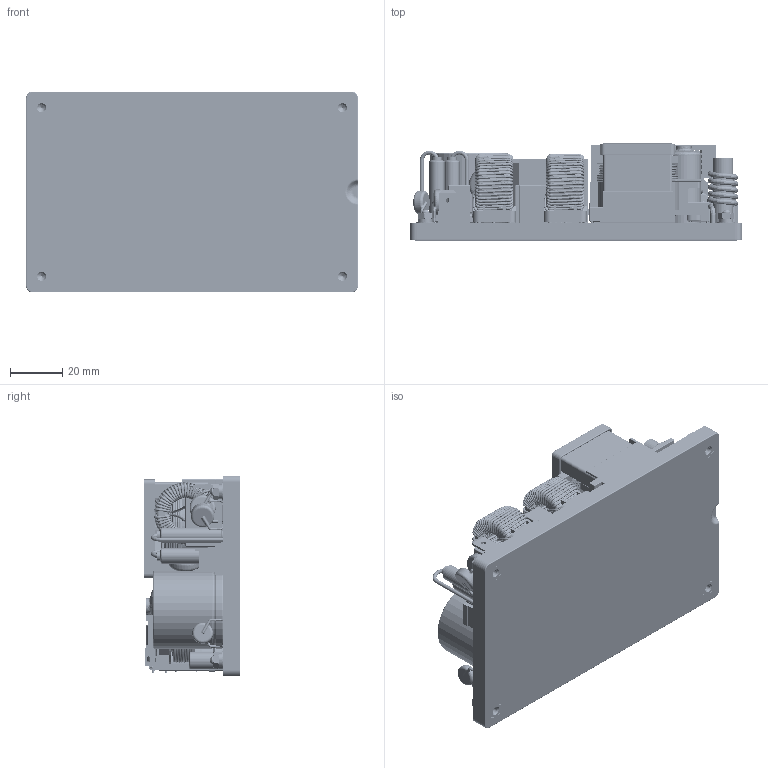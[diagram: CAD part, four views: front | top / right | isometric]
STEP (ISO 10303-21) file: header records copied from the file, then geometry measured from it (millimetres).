
FILE_DESCRIPTION (( 'STEP AP214' ), '1' );
FILE_NAME ('CUS-400M-xxVx-CXy.STEP', '2020-04-16T06:47:51', ( '' ), ( '' ), 'SwSTEP 2.0', 'SolidWorks 2019', '' );
FILE_SCHEMA (( 'AUTOMOTIVE_DESIGN' ));
Length unit declared in the file: millimetre
Products named in the file (103): R1210; 283436; R0805; R1206; A40 Fuse big sleeving 5.5 dia; C0805; SPLIT WASHERS_20035R; M4 X PH COMBI SEMS SCREW_200020; C1206; 283448; CAPACITORS ELECTROLYTIC 10mm PITCH_61085; 240178; rm12 bobbin; C0603; 220563SMA; 230344; 240204; 283717; 230403; 66751; 250238_28421; 250236; EF16; 1999M; FULL NUT_200499; 200268; A40 input fuse short wire; CON2WAYP5.08_0.1; 230184 WINDING 1; 200218; 240180; 27873; 220665SMA; 220563; 220665; 200215; 1598M; 230359 WINDING; 60652M; EF-16 FLY-BACK A40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
Assembly tree (415 placements, depth 5):
  CUS-400M-xxVx-CXy
    220665
      220665SMA
        220665
        C0603  x40
        C0805  x5
        C1206  x32
        1999M  x5
        1598M  x4
        SOD323  x13
        SOT23  x5
        SO-16_Standard
        SO-7
        SO-8  x2
        R0603  x72
        R0805  x32
        R1206
        R2512_Domyslna  x4
        SOT323  x6
        SOP4-long  x2
        SOT-23-5  x4
        R1210  x4
        SOD 123  x2
        SOT223  x2
        dpak  x13
        SSOP4
        60652M
      CAPACITORS DIPPED 10mm PITCH_15084
      CAPACITORS DIPPED 10mm PITCH_16010  x3
      200218
      23578
      283436
        A40 INPUT FUSE
        A40 input fuse ends  x2
        A40 input fuse short wire
        283436
        A40 input fuse sleeve
        A40 Fuse big sleeving 5.5 dia
        A40 Fuse big sleeving end
        A40 Fuse big sleeving end top
      283436
        A40 INPUT FUSE
        A40 input fuse ends  x2
        A40 input fuse short wire
        283436
        A40 input fuse sleeve
        A40 Fuse big sleeving 5.5 dia
        A40 Fuse big sleeving end
        A40 Fuse big sleeving end top
      CAPACITORS BOX 15mm PITCH_23344  x3
      230184
        66751
        1604L
        230184 WINDING 1
        230184 WINDING 2
      230184
        66751
        1604L
        230184 WINDING 1
        230184 WINDING 2
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Bounding box: 127.6 x 37.15 x 77.2 mm (x, y, z)
Volume: 136155.5 mm3; surface area: 168521 mm2
Topology: 468 solids, 471 shells, 18032 faces, 43701 edges, 26848 vertices
Faces by surface type: plane 10808, cylinder 3618, bspline 1959, torus 984, sphere 353, cone 310
Entity records: 350526 total; most frequent: CARTESIAN_POINT 131585, ORIENTED_EDGE 38056, DIRECTION 37796, EDGE_CURVE 19034, AXIS2_PLACEMENT_3D 13657, VERTEX_POINT 11586, VECTOR 10482, LINE 10482
